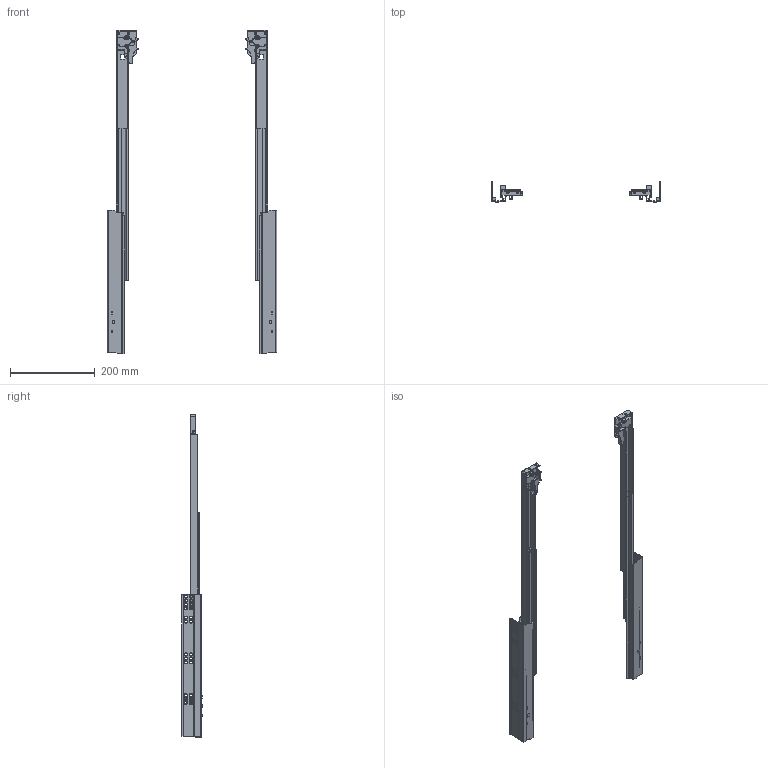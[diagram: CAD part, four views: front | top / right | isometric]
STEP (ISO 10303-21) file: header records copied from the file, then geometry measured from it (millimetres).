
FILE_DESCRIPTION(/* description */ (''),/* implementation_level */ '2;1');
FILE_NAME(/* name */ 'D:\$Workingspace\Designs\Katalog\Cadsoft\GTV Prowadnice\Prowadnice GTV_bryły 3D\PB-0SHX-450-A_wysuw.stp',/* time_stamp */ '2016-11-21T12:58:33+01:00',/* author */ ('tomaszw'),/* organization */ (''),/* preprocessor_version */ 'ST-DEVELOPER v16.1',/* originating_system */ 'Autodesk Inventor 2016',/* authorisation */ '');
FILE_SCHEMA (('AUTOMOTIVE_DESIGN { 1 0 10303 214 3 1 1 }'));
Products named in the file (9): PB-0SHX-CL-450; PB-0SHX-CR-450; PB-0SHX-DL-450; PB-0SHX-DR-450; PB-0SHX-DWL-450; PB-0SHX-DWR-450; PB-0SHX-SL; PB-0SHX-SR; PB-0SHX
Assembly tree (8 placements, depth 2):
  PB-0SHX
    PB-0SHX-CL-450
    PB-0SHX-CR-450
    PB-0SHX-DL-450
    PB-0SHX-DR-450
    PB-0SHX-DWL-450
    PB-0SHX-DWR-450
    PB-0SHX-SL
    PB-0SHX-SR
Bounding box: 400 x 48.8 x 763.5 mm (x, y, z)
Volume: 296457.2 mm3; surface area: 366567.8 mm2
Topology: 14 solids, 14 shells, 3458 faces, 8192 edges, 4766 vertices
Faces by surface type: bspline 1080, cylinder 922, torus 550, plane 466, sphere 332, cone 108
Full cylindrical faces by diameter (mm): 3.64 x2, 4 x6, 4.5 x6, 5.64 x2, 6 x48
Entity records: 143411 total; most frequent: CARTESIAN_POINT 66027, ORIENTED_EDGE 15988, DIRECTION 14406, EDGE_CURVE 7994, AXIS2_PLACEMENT_3D 6193, VERTEX_POINT 4710, CIRCLE 3752, EDGE_LOOP 3736
